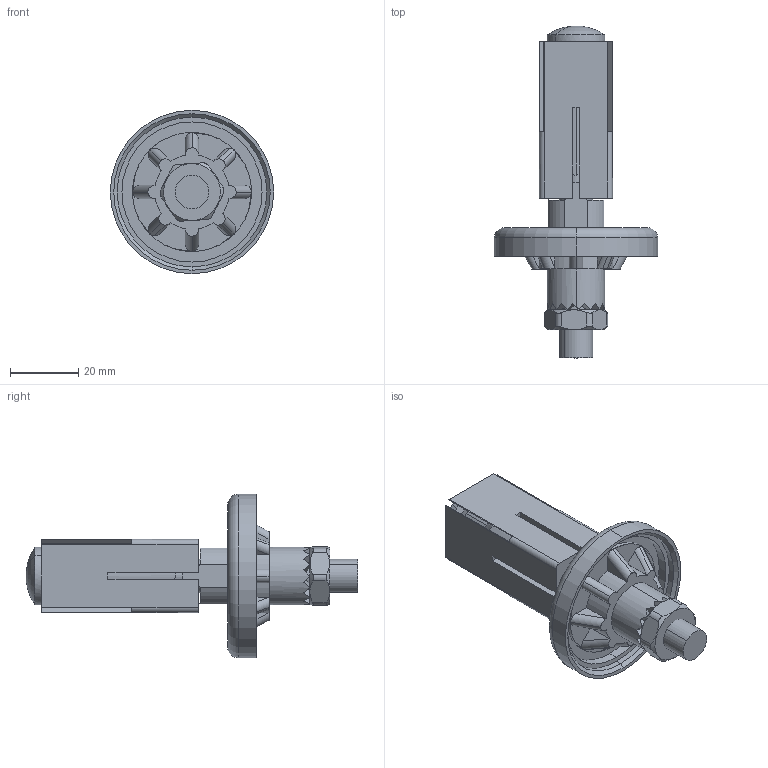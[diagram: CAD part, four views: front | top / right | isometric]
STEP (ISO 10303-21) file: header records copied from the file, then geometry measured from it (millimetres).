
FILE_DESCRIPTION (( 'STEP AP203' ), '1' );
FILE_NAME ('300420_STEP.STEP', '2011-06-20T10:04:49', ( '' ), ( '' ), 'SwSTEP 2.0', 'SolidWorks 2011', '' );
FILE_SCHEMA (( 'CONFIG_CONTROL_DESIGN' ));
Length unit declared in the file: millimetre
Products named in the file (1): 300420_STEP
Bounding box: 48 x 97.6 x 48 mm (x, y, z)
Surface area: 19116 mm2 (no closed solid volume)
Topology: 0 solids, 6 shells, 196 faces, 637 edges, 438 vertices
Faces by surface type: plane 117, cylinder 59, cone 16, torus 4
Entity records: 7155 total; most frequent: CARTESIAN_POINT 1962, ORIENTED_EDGE 1080, DIRECTION 989, EDGE_CURVE 637, VERTEX_POINT 438, AXIS2_PLACEMENT_3D 349, LINE 291, VECTOR 291
